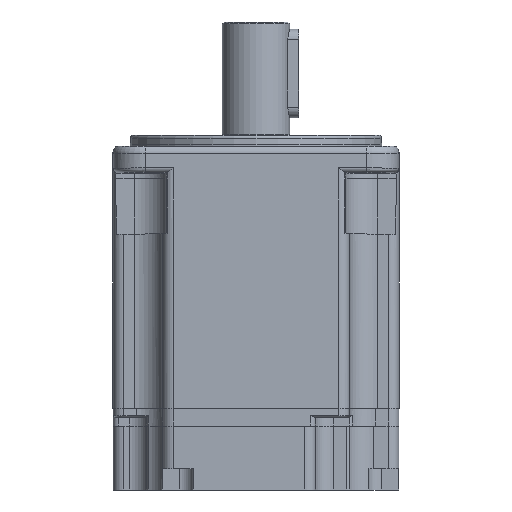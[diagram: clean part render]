
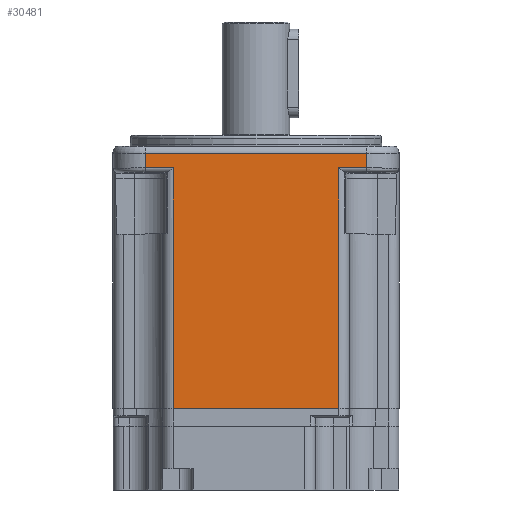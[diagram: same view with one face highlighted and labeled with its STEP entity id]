
A CAD part, left-side view. The second image highlights one B-rep face of the part: STEP entity #30481.
In plain terms, the highlighted planar face has unit normal (-1, 0, 0).
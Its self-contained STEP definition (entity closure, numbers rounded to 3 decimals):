
#72 = CARTESIAN_POINT ( 'NONE',  ( -40.2, 463.294, -5.566 ) ) ;
#600 = CARTESIAN_POINT ( 'NONE',  ( -40.2, 463.294, -73.506 ) ) ;
#695 = CARTESIAN_POINT ( 'NONE',  ( -40.2, 525.772, -1.506 ) ) ;
#843 = VERTEX_POINT ( 'NONE', #6843 ) ;
#849 = DIRECTION ( 'NONE',  ( 0., 0., 1. ) ) ;
#2221 = DIRECTION ( 'NONE',  ( 0., 1., 0. ) ) ;
#2932 = LINE ( 'NONE', #26682, #34992 ) ;
#4746 = DIRECTION ( 'NONE',  ( 0., 1., 0. ) ) ;
#4856 = VERTEX_POINT ( 'NONE', #28888 ) ;
#5291 = ORIENTED_EDGE ( 'NONE', *, *, #31942, .T. ) ;
#5501 = EDGE_CURVE ( 'NONE', #10673, #37264, #28766, .T. ) ;
#5628 = DIRECTION ( 'NONE',  ( 1., 0., 0. ) ) ;
#6603 = ORIENTED_EDGE ( 'NONE', *, *, #21392, .T. ) ;
#6843 = CARTESIAN_POINT ( 'NONE',  ( -40.2, 471.246, -5.566 ) ) ;
#7384 = LINE ( 'NONE', #19390, #47258 ) ;
#7763 = DIRECTION ( 'NONE',  ( 0., 0., 1. ) ) ;
#8667 = VECTOR ( 'NONE', #7763, 1000. ) ;
#10673 = VERTEX_POINT ( 'NONE', #72 ) ;
#12595 = VERTEX_POINT ( 'NONE', #38449 ) ;
#12844 = LINE ( 'NONE', #44751, #35851 ) ;
#14523 = DIRECTION ( 'NONE',  ( 0., 0., -1. ) ) ;
#15613 = EDGE_LOOP ( 'NONE', ( #44920, #5291, #6603, #18501, #44951, #39207, #42139, #51106 ) ) ;
#17031 = EDGE_CURVE ( 'NONE', #45262, #4856, #22829, .T. ) ;
#18354 = EDGE_CURVE ( 'NONE', #25469, #12595, #2932, .T. ) ;
#18501 = ORIENTED_EDGE ( 'NONE', *, *, #5501, .T. ) ;
#19390 = CARTESIAN_POINT ( 'NONE',  ( -40.2, 525.772, -37.506 ) ) ;
#19517 = LINE ( 'NONE', #43578, #8667 ) ;
#21392 = EDGE_CURVE ( 'NONE', #843, #10673, #41573, .T. ) ;
#21846 = CARTESIAN_POINT ( 'NONE',  ( -40.2, 517.819, -73.506 ) ) ;
#22471 = CARTESIAN_POINT ( 'NONE',  ( -40.2, 457.61, -5.566 ) ) ;
#22829 = LINE ( 'NONE', #26991, #38167 ) ;
#25469 = VERTEX_POINT ( 'NONE', #38198 ) ;
#26122 = DIRECTION ( 'NONE',  ( 0., -1., 0. ) ) ;
#26250 = CARTESIAN_POINT ( 'NONE',  ( -40.2, 461.283, -73.506 ) ) ;
#26682 = CARTESIAN_POINT ( 'NONE',  ( -40.2, 461.283, -5.566 ) ) ;
#26899 = VECTOR ( 'NONE', #26122, 1000. ) ;
#26991 = CARTESIAN_POINT ( 'NONE',  ( -40.2, 461.283, -73.406 ) ) ;
#28766 = LINE ( 'NONE', #600, #50624 ) ;
#28888 = CARTESIAN_POINT ( 'NONE',  ( -40.2, 517.819, -73.406 ) ) ;
#30481 = ADVANCED_FACE ( 'NONE', ( #49299 ), #41449, .F. ) ;
#30604 = DIRECTION ( 'NONE',  ( 0., -1., 0. ) ) ;
#31030 = VECTOR ( 'NONE', #14523, 1000. ) ;
#31942 = EDGE_CURVE ( 'NONE', #45262, #843, #19517, .T. ) ;
#34992 = VECTOR ( 'NONE', #30604, 1000. ) ;
#35604 = DIRECTION ( 'NONE',  ( 0., 0., 1. ) ) ;
#35851 = VECTOR ( 'NONE', #4746, 1000. ) ;
#37264 = VERTEX_POINT ( 'NONE', #49954 ) ;
#37792 = VERTEX_POINT ( 'NONE', #695 ) ;
#38167 = VECTOR ( 'NONE', #2221, 1000. ) ;
#38198 = CARTESIAN_POINT ( 'NONE',  ( -40.2, 525.772, -5.566 ) ) ;
#38449 = CARTESIAN_POINT ( 'NONE',  ( -40.2, 517.819, -5.566 ) ) ;
#39207 = ORIENTED_EDGE ( 'NONE', *, *, #48726, .F. ) ;
#41259 = EDGE_CURVE ( 'NONE', #37264, #37792, #12844, .T. ) ;
#41449 = PLANE ( 'NONE',  #50321 ) ;
#41573 = LINE ( 'NONE', #22471, #26899 ) ;
#42139 = ORIENTED_EDGE ( 'NONE', *, *, #18354, .T. ) ;
#42225 = DIRECTION ( 'NONE',  ( 0., -1., 0. ) ) ;
#43578 = CARTESIAN_POINT ( 'NONE',  ( -40.2, 471.246, -37.506 ) ) ;
#44751 = CARTESIAN_POINT ( 'NONE',  ( -40.2, 461.283, -1.506 ) ) ;
#44920 = ORIENTED_EDGE ( 'NONE', *, *, #17031, .F. ) ;
#44951 = ORIENTED_EDGE ( 'NONE', *, *, #41259, .T. ) ;
#45077 = CARTESIAN_POINT ( 'NONE',  ( -40.2, 471.246, -73.406 ) ) ;
#45262 = VERTEX_POINT ( 'NONE', #45077 ) ;
#46687 = LINE ( 'NONE', #21846, #31030 ) ;
#47258 = VECTOR ( 'NONE', #35604, 1000. ) ;
#48726 = EDGE_CURVE ( 'NONE', #25469, #37792, #7384, .T. ) ;
#49299 = FACE_OUTER_BOUND ( 'NONE', #15613, .T. ) ;
#49954 = CARTESIAN_POINT ( 'NONE',  ( -40.2, 463.294, -1.506 ) ) ;
#50321 = AXIS2_PLACEMENT_3D ( 'NONE', #26250, #5628, #42225 ) ;
#50624 = VECTOR ( 'NONE', #849, 1000. ) ;
#50660 = EDGE_CURVE ( 'NONE', #12595, #4856, #46687, .T. ) ;
#51106 = ORIENTED_EDGE ( 'NONE', *, *, #50660, .T. ) ;
